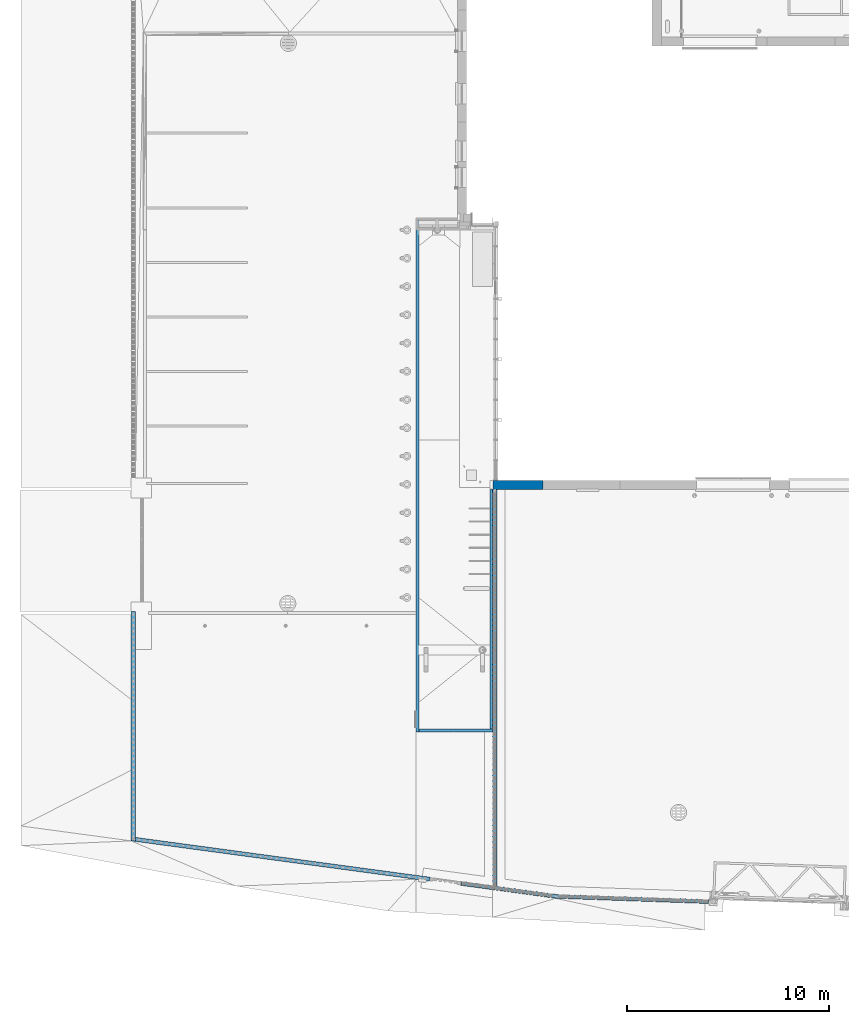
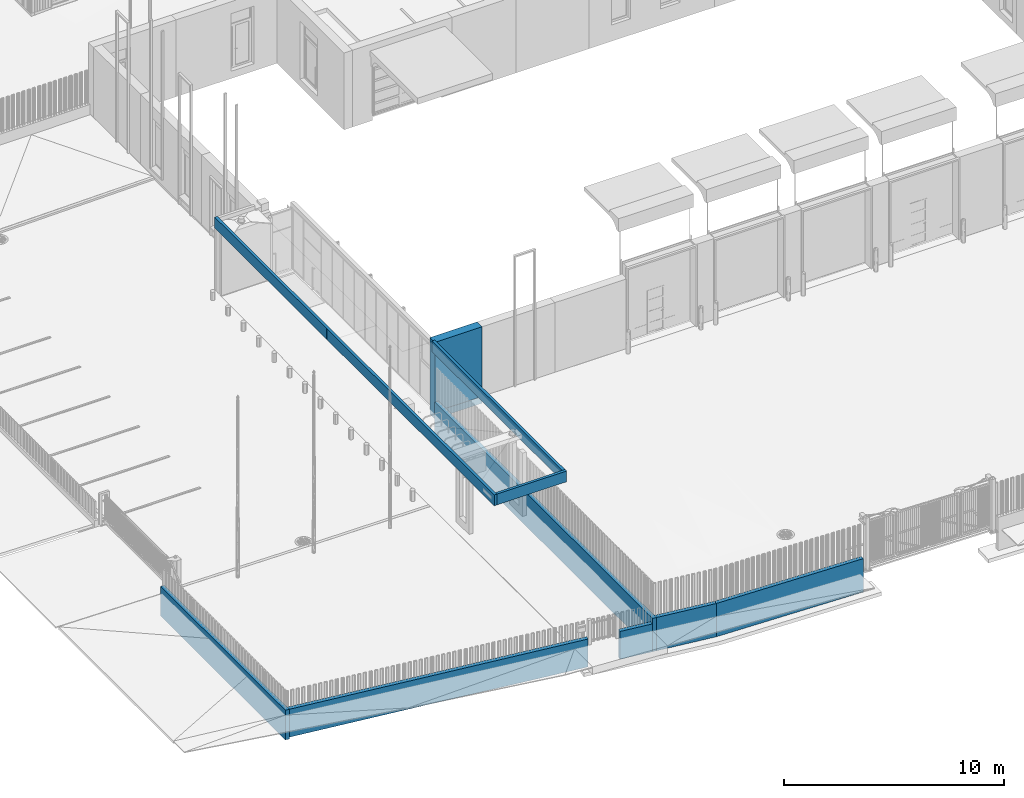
# One storey, part 14 of 77: 10 walls, 15 openings.
"""IFC2X3 building model written with IfcOpenShell, lengths in millimetres."""

import ifcopenshell
import ifcopenshell.guid

model = None  # the IFC model being written
_history = None  # IfcOwnerHistory: only IFC2X3 demands one
_inside = {}  # id of a spatial element -> (the spatial element, [elements in it])
_under = {}  # id of a project, library or spatial element -> (it, [spatial elements below it])
_declared = {}  # id of a project -> (the project, [libraries it declares])
_typed = {}  # id of a type object -> (the type object, [elements of that type])
_made_of = {}  # id of a material, layer set ... -> (it, [elements and type objects made of it])


def new_model(schema):
    """Start an empty IFC model of exactly this schema.

    Asked for "IFC4X3", IfcOpenShell would pick the latest addendum, in which some entities
    have other attributes; the version numbers below select the first issue.
    IFC2X3 requires an IfcOwnerHistory on every rooted entity: one is made here for all.
    """
    global model, _history
    if schema == "IFC4X3":
        model = ifcopenshell.file(schema_version=(4, 3, 0, 0))
    else:
        model = ifcopenshell.file(schema=schema)
    _inside.clear()
    _under.clear()
    _declared.clear()
    _typed.clear()
    _made_of.clear()
    _history = None
    if model.schema == "IFC2X3":
        org = make("IfcOrganization", Name="unknown")
        user = make(
            "IfcPersonAndOrganization",
            ThePerson=make("IfcPerson", FamilyName="unknown"),
            TheOrganization=org,
        )
        app = make(
            "IfcApplication",
            ApplicationDeveloper=org,
            Version="unknown",
            ApplicationFullName="unknown",
            ApplicationIdentifier="unknown",
        )
        _history = make(
            "IfcOwnerHistory",
            OwningUser=user,
            OwningApplication=app,
            ChangeAction="ADDED",
            CreationDate=0,
        )
    return model


def make(cls, **values):
    """One entity of the class cls with the attributes given. An attribute that is None is left unset."""
    return model.create_entity(
        cls, **{name: value for name, value in values.items() if value is not None}
    )


def entity(cls, *values):
    """Any entity or typed value of the class cls, its attributes in the order of the schema. None: left unset."""
    e = model.create_entity(cls)
    for i, value in enumerate(values):
        if value is not None:
            e[i] = value
    return e


def rooted(cls, **values):
    """An entity with a GlobalId (a new one), such as an element, a storey or a relation."""
    return make(cls, GlobalId=ifcopenshell.guid.new(), OwnerHistory=_history, **values)


def si_unit(unit_type, name, prefix=None):
    """IfcSIUnit, for example si_unit("LENGTHUNIT", "METRE", prefix="MILLI")."""
    return make("IfcSIUnit", UnitType=unit_type, Prefix=prefix, Name=name)


def converted_unit(unit_type, name, factor, base, dimensions=None, offset=None):
    """IfcConversionBasedUnit, such as the inch: factor (a typed value) times the base unit."""
    return make(
        "IfcConversionBasedUnit"
        if offset is None
        else "IfcConversionBasedUnitWithOffset",
        ConversionOffset=offset,
        Dimensions=None
        if dimensions is None
        else entity("IfcDimensionalExponents", *dimensions),
        UnitType=unit_type,
        Name=name,
        ConversionFactor=make(
            "IfcMeasureWithUnit", ValueComponent=factor, UnitComponent=base
        ),
    )


def derived_unit(unit_type, elements):
    """IfcDerivedUnit: a product of units, each with its exponent."""
    return make(
        "IfcDerivedUnit",
        Elements=[
            make("IfcDerivedUnitElement", Unit=unit, Exponent=power)
            for unit, power in elements
        ],
        UnitType=unit_type,
    )


def assignment(units):
    """IfcUnitAssignment: the units of a project."""
    return None if units is None else make("IfcUnitAssignment", Units=units)


def point(xyz):
    """IfcCartesianPoint."""
    return None if xyz is None else make("IfcCartesianPoint", Coordinates=xyz)


def direction(xyz):
    """IfcDirection."""
    return None if xyz is None else make("IfcDirection", DirectionRatios=xyz)


def frame(location, z_axis=None, x_axis=None):
    """IfcAxis2Placement3D, a coordinate frame: its origin and axes. An axis left out is left unset."""
    return make(
        "IfcAxis2Placement3D",
        Location=point(location),
        Axis=direction(z_axis),
        RefDirection=direction(x_axis),
    )


def frame_2d(location, x_axis=None):
    """IfcAxis2Placement2D, a coordinate frame in the plane: its origin and x axis."""
    return make(
        "IfcAxis2Placement2D", Location=point(location), RefDirection=direction(x_axis)
    )


def origin():
    """The frame at (0, 0, 0) with its axes left unset."""
    return frame((0.0, 0.0, 0.0))


def origin_2d_with_axis():
    """The frame at (0, 0) in the plane with the x axis (1, 0) written out."""
    return frame_2d((0.0, 0.0), x_axis=(1.0, 0.0))


def place(relative_to, where):
    """IfcLocalPlacement: puts the frame where relative to a parent placement (None: the world)."""
    return make(
        "IfcLocalPlacement", PlacementRelTo=relative_to, RelativePlacement=where
    )


def context(
    kind, dimensions, precision=None, world=None, true_north=None, identifier=None
):
    """IfcGeometricRepresentationContext, for example the 3D "Model" context."""
    return make(
        "IfcGeometricRepresentationContext",
        ContextIdentifier=identifier,
        ContextType=kind,
        CoordinateSpaceDimension=dimensions,
        Precision=precision,
        WorldCoordinateSystem=world,
        TrueNorth=true_north,
    )


def subcontext(parent, identifier, kind, view, scale=None):
    """IfcGeometricRepresentationSubContext, for example "Body" below "Model"."""
    return make(
        "IfcGeometricRepresentationSubContext",
        ContextIdentifier=identifier,
        ContextType=kind,
        ParentContext=parent,
        TargetScale=scale,
        TargetView=view,
    )


def project(units=None, contexts=None):
    """IfcProject with its units and contexts."""
    return rooted(
        "IfcProject",
        Name="project",
        RepresentationContexts=contexts,
        UnitsInContext=assignment(units),
    )


def spatial(cls, under=None, at=None, **own):
    """A site, building, storey or space (cls), placed at a placement, below another one or the project."""
    s = rooted(cls, ObjectPlacement=at, **own)
    if under is not None:
        _under.setdefault(under.id(), (under, []))[1].append(s)
    return s


def polyline(points):
    """IfcPolyline through the points."""
    return make("IfcPolyline", Points=[point(p) for p in points])


def profile(cls, at=None, kind="AREA", **sizes):
    """A parametric profile (cls). Its sizes go by their IFC names, for example OverallWidth=200.0."""
    return make(cls, ProfileType=kind, Position=at, **sizes)


def rectangle(**sizes):
    """IfcRectangleProfileDef."""
    return profile("IfcRectangleProfileDef", **sizes)


def outline(outer, holes=None, kind="AREA"):
    """IfcArbitraryClosedProfileDef: a profile drawn as a closed curve; with holes, ...WithVoids."""
    if holes is None:
        return make("IfcArbitraryClosedProfileDef", ProfileType=kind, OuterCurve=outer)
    return make(
        "IfcArbitraryProfileDefWithVoids",
        ProfileType=kind,
        OuterCurve=outer,
        InnerCurves=holes,
    )


def extrude(swept, where, along, depth):
    """IfcExtrudedAreaSolid: the profile swept, set in the frame where, extruded along a direction by depth."""
    return make(
        "IfcExtrudedAreaSolid",
        SweptArea=swept,
        Position=where,
        ExtrudedDirection=direction(along),
        Depth=depth,
    )


def faces_of(points, faces, orient=None, outer=None):
    """IfcFace entities. A face is a list of loops; a loop is a list of indices into points, from 0.

    orient and outer hold one flag for each loop. By default every Orientation is true, the
    first loop of a face is its IfcFaceOuterBound and the others are IfcFaceBound.
    """
    made = []
    for i, loops in enumerate(faces):
        bounds = []
        for j, loop in enumerate(loops):
            is_outer = j == 0 if outer is None else outer[i][j]
            bounds.append(
                make(
                    "IfcFaceOuterBound" if is_outer else "IfcFaceBound",
                    Bound=make("IfcPolyLoop", Polygon=[points[k] for k in loop]),
                    Orientation=True if orient is None else orient[i][j],
                )
            )
        made.append(make("IfcFace", Bounds=bounds))
    return made


def faceted_brep(points, faces, orient=None, outer=None, voids=None):
    """IfcFacetedBrep: a solid bounded by flat faces; with voids (closed shells), ...WithVoids."""
    shared = [point(p) for p in points]
    hull = make("IfcClosedShell", CfsFaces=faces_of(shared, faces, orient, outer))
    if voids is None:
        return make("IfcFacetedBrep", Outer=hull)
    return make(
        "IfcFacetedBrepWithVoids",
        Outer=hull,
        Voids=[
            make(cls, CfsFaces=faces_of(shared, fs, o, b)) for cls, fs, o, b in voids
        ],
    )


def shape(context_of_items, identifier, shape_type, items):
    """IfcShapeRepresentation: the items that make up one representation, for example the "Body"."""
    return make(
        "IfcShapeRepresentation",
        ContextOfItems=context_of_items,
        RepresentationIdentifier=identifier,
        RepresentationType=shape_type,
        Items=items,
    )


def material(Name=None, Category=None):
    """IfcMaterial."""
    return make("IfcMaterial", Name=Name, Category=Category)


def layer(
    of_material, thickness, ventilated=None, Name=None, Category=None, Priority=None
):
    """IfcMaterialLayer: one layer of a wall or slab, of a material (None: an air gap)."""
    return make(
        "IfcMaterialLayer",
        Material=of_material,
        LayerThickness=thickness,
        IsVentilated=ventilated,
        Name=Name,
        Category=Category,
        Priority=Priority,
    )


def layer_set(layers, Name=None):
    """IfcMaterialLayerSet."""
    return make("IfcMaterialLayerSet", MaterialLayers=layers, LayerSetName=Name)


def layer_usage(for_layer_set, set_direction, sense, offset, extent=None):
    """IfcMaterialLayerSetUsage: how a layer set lies in its element."""
    return make(
        "IfcMaterialLayerSetUsage",
        ForLayerSet=for_layer_set,
        LayerSetDirection=set_direction,
        DirectionSense=sense,
        OffsetFromReferenceLine=offset,
        ReferenceExtent=extent,
    )


def made_of(thing, what):
    """Note that an element or type object is made of a material, layer set ...; save() writes the relation."""
    if what is not None:
        _made_of.setdefault(what.id(), (what, []))[1].append(thing)
    return thing


def type_object(cls, material=None, **own):
    """A type object (cls), such as IfcWallType, which elements share."""
    return made_of(rooted(cls, **own), material)


def element(
    cls,
    number,
    at=None,
    inside=None,
    cuts=None,
    type_object=None,
    material=None,
    context=None,
    identifier="Body",
    shape_type=None,
    held_by="IfcProductDefinitionShape",
    body=None,
    shapes=None,
    **own,
):
    """One element of the class cls, such as IfcWall. Its Tag is "e" and its number.

    at: its placement. inside: the storey or other place that contains it. cuts: it is an
    opening in that element (IfcRelVoidsElement). A single representation is given by context,
    identifier, shape_type and body (its items); several are given by shapes. held_by: the class
    of the entity that holds the representations. save() writes the other relations.
    """
    e = rooted(cls, Tag="e%d" % number, ObjectPlacement=at, **own)
    if body is not None:
        shapes = [shape(context, identifier, shape_type, body)]
    if shapes is not None:
        e.Representation = make(held_by, Representations=shapes)
    if inside is not None:
        _inside.setdefault(inside.id(), (inside, []))[1].append(e)
    if cuts is not None:
        rooted(
            "IfcRelVoidsElement", RelatingBuildingElement=cuts, RelatedOpeningElement=e
        )
    if type_object is not None:
        _typed.setdefault(type_object.id(), (type_object, []))[1].append(e)
    return made_of(e, material)


def aggregate(whole, parts):
    """IfcRelAggregates: a whole, such as a stair, and the parts it consists of."""
    return rooted("IfcRelAggregates", RelatingObject=whole, RelatedObjects=parts)


def save(model, path):
    """Write the relations noted so far, then the file.

    IfcRelAggregates (storeys below a building ...), IfcRelContainedInSpatialStructure (elements
    in a storey), IfcRelDefinesByType, IfcRelAssociatesMaterial and IfcRelDeclares: one each for
    every whole, place, type object, material and project.
    """
    for whole, parts in _under.values():
        aggregate(whole, parts)
    for where, things in _inside.values():
        rooted(
            "IfcRelContainedInSpatialStructure",
            RelatedElements=things,
            RelatingStructure=where,
        )
    for kind, things in _typed.values():
        rooted("IfcRelDefinesByType", RelatedObjects=things, RelatingType=kind)
    for what, things in _made_of.values():
        rooted("IfcRelAssociatesMaterial", RelatedObjects=things, RelatingMaterial=what)
    for by, libraries in _declared.values():
        rooted("IfcRelDeclares", RelatingContext=by, RelatedDefinitions=libraries)
    model.write(path)


model = new_model("IFC2X3")

# Units and contexts
model_context = context("Model", 3, precision=0.01, world=origin(), true_north=direction((6.12303176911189e-17, 1.0)))
body_context = subcontext(model_context, "Body", "Model", "MODEL_VIEW")
ifc_project = project(units=[si_unit("LENGTHUNIT", "METRE", prefix="MILLI"), si_unit("AREAUNIT", "SQUARE_METRE"), si_unit("VOLUMEUNIT", "CUBIC_METRE"), converted_unit("PLANEANGLEUNIT", "DEGREE", entity("IfcRatioMeasure", 0.0174532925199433), si_unit("PLANEANGLEUNIT", "RADIAN"), dimensions=[0, 0, 0, 0, 0, 0, 0]), si_unit("MASSUNIT", "GRAM", prefix="KILO"), derived_unit("MASSDENSITYUNIT", [(si_unit("MASSUNIT", "GRAM", prefix="KILO"), 1), (si_unit("LENGTHUNIT", "METRE"), -3)]), si_unit("TIMEUNIT", "SECOND"), si_unit("FREQUENCYUNIT", "HERTZ"), si_unit("THERMODYNAMICTEMPERATUREUNIT", "DEGREE_CELSIUS"), derived_unit("THERMALTRANSMITTANCEUNIT", [(si_unit("MASSUNIT", "GRAM", prefix="KILO"), 1), (si_unit("THERMODYNAMICTEMPERATUREUNIT", "KELVIN"), -1), (si_unit("TIMEUNIT", "SECOND"), -3)]), derived_unit("VOLUMETRICFLOWRATEUNIT", [(si_unit("LENGTHUNIT", "METRE"), 3), (si_unit("TIMEUNIT", "SECOND"), -1)]), si_unit("ELECTRICCURRENTUNIT", "AMPERE"), si_unit("ELECTRICVOLTAGEUNIT", "VOLT"), si_unit("POWERUNIT", "WATT"), si_unit("FORCEUNIT", "NEWTON", prefix="KILO"), si_unit("ILLUMINANCEUNIT", "LUX"), si_unit("LUMINOUSFLUXUNIT", "LUMEN"), si_unit("LUMINOUSINTENSITYUNIT", "CANDELA"), derived_unit("USERDEFINED", [(si_unit("MASSUNIT", "GRAM", prefix="KILO"), -1), (si_unit("LENGTHUNIT", "METRE"), -2), (si_unit("TIMEUNIT", "SECOND"), 3), (si_unit("LUMINOUSFLUXUNIT", "LUMEN"), 1)]), derived_unit("LINEARVELOCITYUNIT", [(si_unit("LENGTHUNIT", "METRE"), 1), (si_unit("TIMEUNIT", "SECOND"), -1)]), si_unit("PRESSUREUNIT", "PASCAL"), derived_unit("USERDEFINED", [(si_unit("LENGTHUNIT", "METRE"), -2), (si_unit("MASSUNIT", "GRAM", prefix="KILO"), 1), (si_unit("TIMEUNIT", "SECOND"), -2)])], contexts=[model_context])

# Site, building, storey
site_placement = place(None, origin())
site = spatial("IfcSite", under=ifc_project, at=site_placement, Name="Default", CompositionType="ELEMENT")
building_placement = place(site_placement, origin())
building = spatial("IfcBuilding", under=site, at=building_placement, CompositionType="ELEMENT")
storey_placement = place(building_placement, origin())
storey = spatial("IfcBuildingStorey", under=building, at=storey_placement, Name="1. KORRUS", CompositionType="ELEMENT", Elevation=0.0)

# Wall, openings
ifc_material_1 = material(Name="Must-al-komposiitplaat")
ifc_layer_1 = layer(ifc_material_1, 5.0)
ifc_material_2 = material(Name="Õhkvahe- hor roovid")
ifc_layer_2 = layer(ifc_material_2, 20.0)
ifc_material_3 = material(Name="Õhkvahe- vert roovid")
ifc_layer_3 = layer(ifc_material_3, 100.0)
ifc_material_4 = material(Name="Vineer")
ifc_layer_4 = layer(ifc_material_4, 15.0)
ifc_layer_set_1 = layer_set([ifc_layer_1, ifc_layer_2, ifc_layer_3, ifc_layer_4], Name="Basic Wall:varikatuse serv")
ifc_layer_usage_1 = layer_usage(ifc_layer_set_1, "AXIS2", "POSITIVE", -70.0)
wall_type_1 = type_object("IfcWallType", Name="Basic Wall:varikatuse serv", PredefinedType="STANDARD", material=ifc_layer_set_1)
wall_1_placement = place(storey_placement, frame((-2430.0, 13000.0006972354, 3400.0), z_axis=(0.0, 0.0, 1.0), x_axis=(0.0, -1.0, 0.0)))
wall_1 = element("IfcWallStandardCase", 1, at=wall_1_placement, inside=storey, type_object=wall_type_1, material=ifc_layer_usage_1, Name="Basic Wall:varikatuse serv", ObjectType="Basic Wall:varikatuse serv", context=body_context, shape_type="SweptSolid", body=[
    extrude(rectangle(XDim=25450.0006972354, YDim=140.0, at=frame_2d((12725.0003486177, 9.2370555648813e-14), x_axis=(-1.0, 0.0))), origin(), (0.0, 0.0, 1.0), 600.0),
])
opening_1_placement = place(wall_1_placement, origin())
element("IfcOpeningElement", 2, at=opening_1_placement, cuts=wall_1, Name="Basic Wall:varikatuse serv", ObjectType="Recess", context=body_context, shape_type="SweptSolid", body=[
    extrude(rectangle(XDim=600.0, YDim=4.99999999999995, at=frame_2d((0.0, 5.41566791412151e-13), x_axis=(1.0, 0.0))), frame((7002.50069723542, -70.0, 300.0), z_axis=(0.0, 1.0, 0.0), x_axis=(0.0, 0.0, -1.0)), (0.0, 0.0, 1.0), 4.99999999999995),
])
opening_2_placement = place(wall_1_placement, origin())
element("IfcOpeningElement", 3, at=opening_2_placement, cuts=wall_1, Name="Basic Wall:varikatuse serv", ObjectType="Recess", context=body_context, shape_type="SweptSolid", body=[
    extrude(rectangle(XDim=600.0, YDim=4.99999999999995, at=frame_2d((0.0, 5.41566791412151e-13), x_axis=(1.0, 0.0))), frame((3802.50069723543, -70.0, 300.0), z_axis=(0.0, 1.0, 0.0), x_axis=(0.0, 0.0, -1.0)), (0.0, 0.0, 1.0), 4.99999999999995),
])
opening_3_placement = place(wall_1_placement, origin())
element("IfcOpeningElement", 4, at=opening_3_placement, cuts=wall_1, Name="Basic Wall:varikatuse serv", ObjectType="Recess", context=body_context, shape_type="SweptSolid", body=[
    extrude(rectangle(XDim=600.0, YDim=5.00000000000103, at=origin_2d_with_axis()), frame((602.500348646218, -70.0, 300.0), z_axis=(0.0, 1.0, 0.0), x_axis=(0.0, 0.0, -1.0)), (0.0, 0.0, 1.0), 4.99999999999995),
])
opening_4_placement = place(wall_1_placement, origin())
element("IfcOpeningElement", 5, at=opening_4_placement, cuts=wall_1, Name="Basic Wall:varikatuse serv", ObjectType="Recess", context=body_context, shape_type="SweptSolid", body=[
    extrude(rectangle(XDim=600.0, YDim=4.99999999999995, at=origin_2d_with_axis()), frame((10202.5006972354, -70.0, 300.0), z_axis=(0.0, 1.0, 0.0), x_axis=(0.0, 0.0, -1.0)), (0.0, 0.0, 1.0), 4.99999999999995),
])
opening_5_placement = place(wall_1_placement, origin())
element("IfcOpeningElement", 6, at=opening_5_placement, cuts=wall_1, Name="Basic Wall:varikatuse serv", ObjectType="Recess", context=body_context, shape_type="SweptSolid", body=[
    extrude(rectangle(XDim=600.0, YDim=5.00000000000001, at=frame_2d((0.0, 3.39728245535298e-14), x_axis=(1.0, 0.0))), frame((13402.5006972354, -70.0, 300.0), z_axis=(0.0, 1.0, 0.0), x_axis=(0.0, 0.0, -1.0)), (0.0, 0.0, 1.0), 4.99999999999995),
])
opening_6_placement = place(wall_1_placement, origin())
element("IfcOpeningElement", 7, at=opening_6_placement, cuts=wall_1, Name="Basic Wall:varikatuse serv", ObjectType="Recess", context=body_context, shape_type="SweptSolid", body=[
    extrude(rectangle(XDim=600.0, YDim=4.99999999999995, at=frame_2d((0.0, 5.41566791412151e-13), x_axis=(1.0, 0.0))), frame((16602.5006972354, -70.0, 300.0), z_axis=(0.0, 1.0, 0.0), x_axis=(0.0, 0.0, -1.0)), (0.0, 0.0, 1.0), 4.99999999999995),
])
opening_7_placement = place(wall_1_placement, origin())
element("IfcOpeningElement", 8, at=opening_7_placement, cuts=wall_1, Name="Basic Wall:varikatuse serv", ObjectType="Recess", context=body_context, shape_type="SweptSolid", body=[
    extrude(rectangle(XDim=600.0, YDim=4.99999999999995, at=frame_2d((0.0, 5.41566791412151e-13), x_axis=(1.0, 0.0))), frame((19802.5006972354, -70.0, 300.0), z_axis=(0.0, 1.0, 0.0), x_axis=(0.0, 0.0, -1.0)), (0.0, 0.0, 1.0), 4.99999999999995),
])
opening_8_placement = place(wall_1_placement, origin())
element("IfcOpeningElement", 9, at=opening_8_placement, cuts=wall_1, Name="Basic Wall:varikatuse serv", ObjectType="Recess", context=body_context, shape_type="SweptSolid", body=[
    extrude(rectangle(XDim=600.0, YDim=5.00000000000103, at=frame_2d((0.0, -1.08291153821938e-12), x_axis=(1.0, 0.0))), frame((23002.5006972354, -70.0, 300.0), z_axis=(0.0, 1.0, 0.0), x_axis=(0.0, 0.0, -1.0)), (0.0, 0.0, 1.0), 4.99999999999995),
])

ifc_layer_usage_2 = layer_usage(ifc_layer_set_1, "AXIS2", "POSITIVE", -70.0)
wall_2_placement = place(storey_placement, frame((-2360.0, -12380.0, 3400.0)))
wall_2 = element("IfcWallStandardCase", 10, at=wall_2_placement, inside=storey, type_object=wall_type_1, material=ifc_layer_usage_2, Name="Basic Wall:varikatuse serv", ObjectType="Basic Wall:varikatuse serv", context=body_context, shape_type="SweptSolid", body=[
    extrude(rectangle(XDim=3660.00000000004, YDim=139.999999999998, at=frame_2d((1830.00000000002, -2.41584530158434e-13), x_axis=(-1.0, 0.0))), origin(), (0.0, 0.0, 1.0), 600.0),
])
opening_9_placement = place(wall_2_placement, origin())
element("IfcOpeningElement", 11, at=opening_9_placement, cuts=wall_2, Name="Basic Wall:varikatuse serv", ObjectType="Recess", context=body_context, shape_type="SweptSolid", body=[
    extrude(rectangle(XDim=600.0, YDim=4.99999999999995, at=origin_2d_with_axis()), frame((2.50000000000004, -70.0, 300.0), z_axis=(0.0, 1.0, 0.0), x_axis=(0.0, 0.0, -1.0)), (0.0, 0.0, 1.0), 5.00000000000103),
])
opening_10_placement = place(wall_2_placement, origin())
element("IfcOpeningElement", 12, at=opening_10_placement, cuts=wall_2, Name="Basic Wall:varikatuse serv", ObjectType="Recess", context=body_context, shape_type="SweptSolid", body=[
    extrude(rectangle(XDim=600.0, YDim=4.99999999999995, at=origin_2d_with_axis()), frame((3532.50000000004, -70.0, 300.0), z_axis=(0.0, 1.0, 0.0), x_axis=(0.0, 0.0, -1.0)), (0.0, 0.0, 1.0), 5.00000000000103),
])
opening_11_placement = place(wall_2_placement, origin())
element("IfcOpeningElement", 13, at=opening_11_placement, cuts=wall_2, Name="Basic Wall:varikatuse serv", ObjectType="Recess", context=body_context, shape_type="SweptSolid", body=[
    extrude(rectangle(XDim=600.0, YDim=4.99999999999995, at=origin_2d_with_axis()), frame((1732.50000000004, -70.0, 300.0), z_axis=(0.0, 1.0, 0.0), x_axis=(0.0, 0.0, -1.0)), (0.0, 0.0, 1.0), 5.00000000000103),
])

ifc_layer_usage_3 = layer_usage(ifc_layer_set_1, "AXIS2", "POSITIVE", -70.0)
wall_3_placement = place(storey_placement, frame((1230.0, -12310.0, 3400.0), z_axis=(0.0, 0.0, 1.0), x_axis=(0.0, 1.0, 0.0)))
wall_3 = element("IfcWallStandardCase", 14, at=wall_3_placement, inside=storey, type_object=wall_type_1, material=ifc_layer_usage_3, Name="Basic Wall:varikatuse serv", ObjectType="Basic Wall:varikatuse serv", context=body_context, shape_type="SweptSolid", body=[
    extrude(rectangle(XDim=11860.0, YDim=140.0, at=frame_2d((5930.0, 7.105427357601e-15), x_axis=(-1.0, 0.0))), origin(), (0.0, 0.0, 1.0), 600.0),
])
opening_12_placement = place(wall_3_placement, origin())
element("IfcOpeningElement", 15, at=opening_12_placement, cuts=wall_3, Name="Basic Wall:varikatuse serv", ObjectType="Recess", context=body_context, shape_type="SweptSolid", body=[
    extrude(rectangle(XDim=600.0, YDim=4.99999999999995, at=origin_2d_with_axis()), frame((8657.49999999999, -70.0, 300.0), z_axis=(0.0, 1.0, 0.0), x_axis=(0.0, 0.0, -1.0)), (0.0, 0.0, 1.0), 4.99999999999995),
])
opening_13_placement = place(wall_3_placement, origin())
element("IfcOpeningElement", 16, at=opening_13_placement, cuts=wall_3, Name="Basic Wall:varikatuse serv", ObjectType="Recess", context=body_context, shape_type="SweptSolid", body=[
    extrude(rectangle(XDim=600.0, YDim=4.99999999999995, at=frame_2d((0.0, -5.41566791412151e-13), x_axis=(1.0, 0.0))), frame((5457.5, -70.0, 300.0), z_axis=(0.0, 1.0, 0.0), x_axis=(0.0, 0.0, -1.0)), (0.0, 0.0, 1.0), 4.99999999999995),
])
opening_14_placement = place(wall_3_placement, origin())
element("IfcOpeningElement", 17, at=opening_14_placement, cuts=wall_3, Name="Basic Wall:varikatuse serv", ObjectType="Recess", context=body_context, shape_type="SweptSolid", body=[
    extrude(rectangle(XDim=600.0, YDim=5.00000000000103, at=frame_2d((0.0, -1.08291153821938e-12), x_axis=(1.0, 0.0))), frame((2257.5, -70.0, 300.0), z_axis=(0.0, 1.0, 0.0), x_axis=(0.0, 0.0, -1.0)), (0.0, 0.0, 1.0), 4.99999999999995),
])

# Wall, opening
ifc_material_5 = material(Name="RECKLI 1 173 THUR by Polantis 2016-toon1")
ifc_layer_5 = layer(ifc_material_5, 100.0)
ifc_material_6 = material(Name="Soojusisolatsioon PIR")
ifc_layer_6 = layer(ifc_material_6, 150.0)
ifc_material_7 = material(Name="r/b")
ifc_layer_7 = layer(ifc_material_7, 200.0)
ifc_layer_set_2 = layer_set([ifc_layer_5, ifc_layer_6, ifc_layer_7], Name="Basic Wall:VS-2 -toon-d")
ifc_layer_usage_4 = layer_usage(ifc_layer_set_2, "AXIS2", "NEGATIVE", 225.0)
wall_type_2 = type_object("IfcWallType", Name="Basic Wall:VS-2 -toon-d", PredefinedType="STANDARD", material=ifc_layer_set_2)
wall_4_placement = place(storey_placement, frame((3790.030823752, -225.0, -400.0), z_axis=(0.0, 0.0, 1.0), x_axis=(-1.0, 0.0, 0.0)))
wall_4 = element("IfcWallStandardCase", 18, at=wall_4_placement, inside=storey, type_object=wall_type_2, material=ifc_layer_usage_4, Name="Basic Wall:VS-2 -toon-d", ObjectType="Basic Wall:VS-2 -toon-d", context=body_context, shape_type="SweptSolid", body=[
    extrude(rectangle(XDim=2485.0, YDim=450.0, at=frame_2d((1242.5, 4.2632564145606e-14), x_axis=(-1.0, 0.0))), origin(), (0.0, 0.0, 1.0), 4265.0),
])
opening_15_placement = place(wall_4_placement, origin())
element("IfcOpeningElement", 19, at=opening_15_placement, cuts=wall_4, Name="Basic Wall:VS-2 -toon-d", ObjectType="Opening", context=body_context, shape_type="Brep", body=[
    faceted_brep([(4220.03082375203, -28255.0, 400.0), (4220.03082375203, -28255.0, 0.0), (4240.03082375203, -28275.0, 0.0), (4240.03082375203, -28275.0, 400.0), (4220.03082375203, -23515.0, 400.0), (4240.03082375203, -23515.0, 400.0), (4240.03082375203, -23515.0, 0.0), (4220.03082375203, -23515.0, 0.0)], [[[0, 1, 2, 3]], [[4, 5, 6, 7]], [[1, 0, 4, 7]], [[2, 1, 7, 6]], [[3, 2, 6, 5]], [[0, 3, 5, 4]]]),
    faceted_brep([(4220.03082375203, -28255.0, 400.0), (4240.03082375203, -28275.0, 400.0), (4240.03082375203, -28275.0, 0.0), (4220.03082375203, -28255.0, 0.0), (-119.969176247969, -28255.0, 400.0), (-119.969176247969, -28255.0, 0.0), (-119.969176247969, -28275.0, 0.0), (-119.969176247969, -28275.0, 400.0)], [[[0, 1, 2, 3]], [[4, 5, 6, 7]], [[1, 0, 4, 7]], [[2, 1, 7, 6]], [[3, 2, 6, 5]], [[0, 3, 5, 4]]]),
    faceted_brep([(-5839.96917624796, -28255.0, 400.0), (-5859.96917624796, -28275.0, 400.0), (-5859.96917624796, -28275.0, 0.0), (-5839.96917624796, -28255.0, 0.0), (-5839.96917624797, -22155.0517807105, 400.0), (-5839.96917624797, -22155.0517807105, 0.0), (-5859.96917624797, -22175.0517807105, 0.0), (-5859.96917624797, -22175.0517807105, 400.0)], [[[0, 1, 2, 3]], [[4, 5, 6, 7]], [[1, 0, 4, 7]], [[2, 1, 7, 6]], [[3, 2, 6, 5]], [[0, 3, 5, 4]]]),
    faceted_brep([(-10559.969176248, -22155.0517807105, 400.0), (-10559.969176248, -22175.0517807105, 400.0), (-10559.969176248, -22175.0517807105, 0.0), (-10559.969176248, -22155.0517807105, 0.0), (-11089.9691762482, -22155.0517807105, 400.0), (-11089.9691762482, -22155.0517807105, 0.0), (-11089.9691762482, -22175.0517807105, 0.0), (-11089.9691762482, -22175.0517807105, 400.0)], [[[0, 1, 2, 3]], [[4, 5, 6, 7]], [[1, 0, 4, 7]], [[2, 1, 7, 6]], [[3, 2, 6, 5]], [[0, 3, 5, 4]]]),
    faceted_brep([(-36139.969176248, -22155.0517807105, 400.0), (-36159.969176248, -22175.0517807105, 400.0), (-36159.969176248, -22175.0517807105, 0.0), (-36139.969176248, -22155.0517807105, 0.0), (-36139.969176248, -16015.0, 400.0), (-36139.969176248, -16015.0, 0.0), (-36159.969176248, -16015.0, 0.0), (-36159.969176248, -16015.0, 400.0)], [[[0, 1, 2, 3]], [[4, 5, 6, 7]], [[1, 0, 4, 7]], [[2, 1, 7, 6]], [[3, 2, 6, 5]], [[0, 3, 5, 4]]]),
    faceted_brep([(-36139.969176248, 205.0, 400.0), (-36159.969176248, 225.0, 400.0), (-36159.969176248, 225.0, 0.0), (-36139.969176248, 205.0, 0.0), (-31009.969176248, 205.0, 400.0), (-31009.969176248, 205.0, 0.0), (-31009.969176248, 225.0, 0.0), (-31009.969176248, 225.0, 400.0)], [[[0, 1, 2, 3]], [[4, 5, 6, 7]], [[1, 0, 4, 7]], [[2, 1, 7, 6]], [[3, 2, 6, 5]], [[0, 3, 5, 4]]]),
    faceted_brep([(-7609.96917624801, 205.0, 400.0), (-7609.96917624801, 225.0, 400.0), (-7609.96917624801, 225.0, 0.0), (-7609.96917624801, 205.0, 0.0), (-3824.96917624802, 205.0, 400.0), (-3824.96917624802, 205.0, 0.0), (-3824.96917624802, 225.0, 0.0), (-3824.96917624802, 225.0, 400.0)], [[[0, 1, 2, 3]], [[4, 5, 6, 7]], [[1, 0, 4, 7]], [[2, 1, 7, 6]], [[3, 2, 6, 5]], [[0, 3, 5, 4]]]),
    faceted_brep([(-36139.969176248, -12985.0, 400.0), (-36159.969176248, -12985.0, 400.0), (-36159.969176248, -12985.0, 0.0), (-36139.969176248, -12985.0, 0.0), (-36139.969176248, -8868.33000000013, 400.0), (-36139.969176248, -8868.33000000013, 0.0), (-36159.969176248, -8868.33000000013, 0.0), (-36159.969176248, -8868.33000000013, 400.0)], [[[0, 1, 2, 3]], [[4, 5, 6, 7]], [[1, 0, 4, 7]], [[2, 1, 7, 6]], [[3, 2, 6, 5]], [[0, 3, 5, 4]]]),
    faceted_brep([(-27409.9691762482, 205.0, 400.0), (-27409.9691762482, 225.0, 400.0), (-27409.9691762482, 225.0, 0.0), (-27409.9691762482, 205.0, 0.0), (-25009.969176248, 205.0, 400.0), (-25009.969176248, 205.0, 0.0), (-25009.969176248, 225.0, 0.0), (-25009.969176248, 225.0, 400.0)], [[[0, 1, 2, 3]], [[4, 5, 6, 7]], [[1, 0, 4, 7]], [[2, 1, 7, 6]], [[3, 2, 6, 5]], [[0, 3, 5, 4]]]),
    faceted_brep([(0.0, 205.0, 400.0), (0.0, 225.0, 400.0), (0.0, 225.0, 0.0), (0.0, 205.0, 0.0), (2485.0, 205.0, 400.0), (2485.0, 205.0, 0.0), (2485.0, 225.0, 0.0), (2485.0, 225.0, 400.0)], [[[0, 1, 2, 3]], [[4, 5, 6, 7]], [[1, 0, 4, 7]], [[2, 1, 7, 6]], [[3, 2, 6, 5]], [[0, 3, 5, 4]]]),
    faceted_brep([(-12209.9691762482, 205.0, 400.0), (-12209.9691762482, 225.0, 400.0), (-12209.9691762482, 225.0, 0.0), (-12209.9691762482, 205.0, 0.0), (-11209.969176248, 205.0, 400.0), (-11209.969176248, 205.0, 0.0), (-11209.969176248, 225.0, 0.0), (-11209.969176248, 225.0, 400.0)], [[[0, 1, 2, 3]], [[4, 5, 6, 7]], [[1, 0, 4, 7]], [[2, 1, 7, 6]], [[3, 2, 6, 5]], [[0, 3, 5, 4]]]),
    faceted_brep([(-16810.0008392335, 205.0, 400.0), (-16810.0008392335, 225.0, 400.0), (-16810.0008392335, 225.0, 0.0), (-16810.0008392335, 205.0, 0.0), (-15809.969176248, 205.0, 400.0), (-15809.969176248, 205.0, 0.0), (-15809.969176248, 225.0, 0.0), (-15809.969176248, 225.0, 400.0)], [[[0, 1, 2, 3]], [[4, 5, 6, 7]], [[1, 0, 4, 7]], [[2, 1, 7, 6]], [[3, 2, 6, 5]], [[0, 3, 5, 4]]]),
    faceted_brep([(-21410.0008392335, 205.0, 400.0), (-21410.0008392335, 225.0, 400.0), (-21410.0008392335, 225.0, 0.0), (-21410.0008392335, 205.0, 0.0), (-20409.969176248, 205.0, 400.0), (-20409.969176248, 205.0, 0.0), (-20409.969176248, 225.0, 0.0), (-20409.969176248, 225.0, 400.0)], [[[0, 1, 2, 3]], [[4, 5, 6, 7]], [[1, 0, 4, 7]], [[2, 1, 7, 6]], [[3, 2, 6, 5]], [[0, 3, 5, 4]]]),
    faceted_brep([(-36139.969176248, -4640.0, 400.0), (-36159.969176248, -4640.0, 400.0), (-36159.969176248, -4640.0, 0.0), (-36139.969176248, -4640.0, 0.0), (-36139.969176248, 205.0, 400.0), (-36139.969176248, 205.0, 0.0), (-36159.969176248, 225.0, 0.0), (-36159.969176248, 225.0, 400.0)], [[[0, 1, 2, 3]], [[4, 5, 6, 7]], [[1, 0, 4, 7]], [[2, 1, 7, 6]], [[3, 2, 6, 5]], [[0, 3, 5, 4]]]),
    faceted_brep([(-36139.969176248, -8868.33000000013, 400.0), (-36159.969176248, -8868.33000000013, 400.0), (-36159.969176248, -8868.33000000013, 0.0), (-36139.969176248, -8868.33000000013, 0.0), (-36139.969176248, -4640.0, 400.0), (-36139.969176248, -4640.0, 0.0), (-36159.969176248, -4640.0, 0.0), (-36159.969176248, -4640.0, 400.0)], [[[0, 1, 2, 3]], [[4, 5, 6, 7]], [[1, 0, 4, 7]], [[2, 1, 7, 6]], [[3, 2, 6, 5]], [[0, 3, 5, 4]]]),
    faceted_brep([(-36139.969176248, -16015.0, 400.0), (-36159.969176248, -16015.0, 400.0), (-36159.969176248, -16015.0, 0.0), (-36139.969176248, -16015.0, 0.0), (-36139.969176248, -12985.0, 400.0), (-36139.969176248, -12985.0, 0.0), (-36159.969176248, -12985.0, 0.0), (-36159.969176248, -12985.0, 400.0)], [[[0, 1, 2, 3]], [[4, 5, 6, 7]], [[1, 0, 4, 7]], [[2, 1, 7, 6]], [[3, 2, 6, 5]], [[0, 3, 5, 4]]]),
    faceted_brep([(-30180.0727464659, -22155.0517807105, 400.0), (-30180.0727464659, -22175.0517807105, 400.0), (-30180.0727464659, -22175.0517807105, 0.0), (-30180.0727464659, -22155.0517807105, 0.0), (-36139.969176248, -22155.0517807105, 400.0), (-36139.969176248, -22155.0517807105, 0.0), (-36159.969176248, -22175.0517807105, 0.0), (-36159.969176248, -22175.0517807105, 400.0)], [[[0, 1, 2, 3]], [[4, 5, 6, 7]], [[1, 0, 4, 7]], [[2, 1, 7, 6]], [[3, 2, 6, 5]], [[0, 3, 5, 4]]]),
    faceted_brep([(-24873.1853249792, -22155.0517807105, 400.0), (-24873.1853249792, -22175.0517807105, 400.0), (-24873.1853249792, -22175.0517807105, 0.0), (-24873.1853249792, -22155.0517807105, 0.0), (-30180.0727464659, -22155.0517807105, 400.0), (-30180.0727464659, -22155.0517807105, 0.0), (-30180.0727464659, -22175.0517807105, 0.0), (-30180.0727464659, -22175.0517807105, 400.0)], [[[0, 1, 2, 3]], [[4, 5, 6, 7]], [[1, 0, 4, 7]], [[2, 1, 7, 6]], [[3, 2, 6, 5]], [[0, 3, 5, 4]]]),
    faceted_brep([(-3824.96917624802, 205.0, 400.0), (-3824.96917624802, 225.0, 400.0), (-3824.96917624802, 225.0, 0.0), (-3824.96917624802, 205.0, 0.0), (0.0, 205.0, 400.0), (0.0, 205.0, 0.0), (0.0, 225.0, 0.0), (0.0, 225.0, 400.0)], [[[0, 1, 2, 3]], [[4, 5, 6, 7]], [[1, 0, 4, 7]], [[2, 1, 7, 6]], [[3, 2, 6, 5]], [[0, 3, 5, 4]]]),
    faceted_brep([(-18294.969176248, -22155.0517807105, 400.0), (-18294.969176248, -22175.0517807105, 400.0), (-18294.969176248, -22175.0517807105, 0.0), (-18294.969176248, -22155.0517807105, 0.0), (-24873.1853249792, -22155.0517807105, 400.0), (-24873.1853249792, -22155.0517807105, 0.0), (-24873.1853249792, -22175.0517807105, 0.0), (-24873.1853249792, -22175.0517807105, 400.0)], [[[0, 1, 2, 3]], [[4, 5, 6, 7]], [[1, 0, 4, 7]], [[2, 1, 7, 6]], [[3, 2, 6, 5]], [[0, 3, 5, 4]]]),
    faceted_brep([(-14463.3220672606, -22155.0517807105, 400.0), (-14463.3220672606, -22175.0517807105, 400.0), (-14463.3220672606, -22175.0517807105, 0.0), (-14463.3220672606, -22155.0517807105, 0.0), (-18294.969176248, -22155.0517807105, 400.0), (-18294.969176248, -22155.0517807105, 0.0), (-18294.969176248, -22175.0517807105, 0.0), (-18294.969176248, -22175.0517807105, 400.0)], [[[0, 1, 2, 3]], [[4, 5, 6, 7]], [[1, 0, 4, 7]], [[2, 1, 7, 6]], [[3, 2, 6, 5]], [[0, 3, 5, 4]]]),
    faceted_brep([(-11089.9691762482, -22155.0517807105, 400.0), (-11089.9691762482, -22175.0517807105, 400.0), (-11089.9691762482, -22175.0517807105, 0.0), (-11089.9691762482, -22155.0517807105, 0.0), (-14463.3220672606, -22155.0517807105, 400.0), (-14463.3220672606, -22155.0517807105, 0.0), (-14463.3220672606, -22175.0517807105, 0.0), (-14463.3220672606, -22175.0517807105, 400.0)], [[[0, 1, 2, 3]], [[4, 5, 6, 7]], [[1, 0, 4, 7]], [[2, 1, 7, 6]], [[3, 2, 6, 5]], [[0, 3, 5, 4]]]),
    faceted_brep([(-119.969176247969, -28255.0, 400.0), (-119.969176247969, -28275.0, 400.0), (-119.969176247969, -28275.0, 0.0), (-119.969176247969, -28255.0, 0.0), (-5839.96917624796, -28255.0, 400.0), (-5839.96917624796, -28255.0, 0.0), (-5859.96917624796, -28275.0, 0.0), (-5859.96917624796, -28275.0, 400.0)], [[[0, 1, 2, 3]], [[4, 5, 6, 7]], [[1, 0, 4, 7]], [[2, 1, 7, 6]], [[3, 2, 6, 5]], [[0, 3, 5, 4]]]),
    faceted_brep([(4220.03082375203, -23515.0, 400.0), (4220.03082375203, -23515.0, 0.0), (4240.03082375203, -23515.0, 0.0), (4240.03082375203, -23515.0, 400.0), (4220.03082375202, -17965.0006972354, 400.0), (4240.03082375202, -17965.0006972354, 400.0), (4240.03082375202, -17965.0006972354, 0.0), (4220.03082375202, -17965.0006972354, 0.0)], [[[0, 1, 2, 3]], [[4, 5, 6, 7]], [[1, 0, 4, 7]], [[2, 1, 7, 6]], [[3, 2, 6, 5]], [[0, 3, 5, 4]]]),
    faceted_brep([(4220.03082375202, -17965.0006972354, 400.0), (4220.03082375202, -17965.0006972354, 0.0), (4240.03082375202, -17965.0006972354, 0.0), (4240.03082375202, -17965.0006972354, 400.0), (4220.03082375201, -13025.0, 400.0), (4240.03082375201, -13025.0, 400.0), (4240.03082375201, -13025.0, 0.0), (4220.03082375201, -13025.0, 0.0)], [[[0, 1, 2, 3]], [[4, 5, 6, 7]], [[1, 0, 4, 7]], [[2, 1, 7, 6]], [[3, 2, 6, 5]], [[0, 3, 5, 4]]]),
    faceted_brep([(-5839.96917624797, -22155.0517807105, 400.0), (-5859.96917624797, -22175.0517807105, 400.0), (-5859.96917624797, -22175.0517807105, 0.0), (-5839.96917624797, -22155.0517807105, 0.0), (-6959.96917624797, -22155.0517807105, 400.0), (-6959.96917624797, -22155.0517807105, 0.0), (-6959.96917624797, -22175.0517807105, 0.0), (-6959.96917624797, -22175.0517807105, 400.0)], [[[0, 1, 2, 3]], [[4, 5, 6, 7]], [[1, 0, 4, 7]], [[2, 1, 7, 6]], [[3, 2, 6, 5]], [[0, 3, 5, 4]]]),
])

# Walls
ifc_material_8 = material(Name="aia r/b sokkel")
ifc_layer_8 = layer(ifc_material_8, 200.0)
ifc_layer_set_3 = layer_set([ifc_layer_8], Name="Basic Wall:Aed-madal")
ifc_layer_usage_5 = layer_usage(ifc_layer_set_3, "AXIS2", "NEGATIVE", 100.0)
wall_type_3 = type_object("IfcWallType", Name="Basic Wall:Aed-madal", PredefinedType="STANDARD", material=ifc_layer_set_3)
wall_5_placement = place(storey_placement, frame((-16500.0, -17879.3172333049, -1400.0), z_axis=(0.0, 0.0, 1.0), x_axis=(0.0, 1.0, 0.0)))
element("IfcWallStandardCase", 20, at=wall_5_placement, inside=storey, type_object=wall_type_3, material=ifc_layer_usage_5, Name="Basic Wall:Aed-madal", ObjectType="Basic Wall:Aed-madal", context=body_context, shape_type="SweptSolid", body=[
    extrude(outline(polyline([(11381.3303883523, -100.0), (11381.3303883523, 100.0), (27.029952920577, 100.0), (0.0, -100.0), (11381.3303883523, -100.0)])), origin(), (0.0, 0.0, 1.0), 1650.0),
])
ifc_layer_usage_6 = layer_usage(ifc_layer_set_3, "AXIS2", "NEGATIVE", 100.0)
wall_6_placement = place(storey_placement, frame((-1818.38289534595, -19749.1102122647, -1300.0), z_axis=(0.0, 0.0, 1.0), x_axis=(-0.9909905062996, 0.13393213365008, 0.0)))
element("IfcWallStandardCase", 21, at=wall_6_placement, inside=storey, type_object=wall_type_3, material=ifc_layer_usage_6, Name="Basic Wall:Aed-madal", ObjectType="Basic Wall:Aed-madal", context=body_context, shape_type="SweptSolid", body=[
    extrude(outline(polyline([(14727.6994332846, -100.0), (14700.669480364, 100.0), (0.0, 100.0), (0.0, -100.0), (14727.6994332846, -100.0)])), origin(), (0.0, 0.0, 1.0), 1550.0),
])
ifc_layer_usage_7 = layer_usage(ifc_layer_set_3, "AXIS2", "NEGATIVE", 100.0)
wall_7_placement = place(storey_placement, frame((1313.1541234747, -20172.3367032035, -1300.0), z_axis=(0.0, 0.0, 1.0), x_axis=(-0.9909905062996, 0.133932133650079, 0.0)))
element("IfcWallStandardCase", 22, at=wall_7_placement, inside=storey, type_object=wall_type_3, material=ifc_layer_usage_7, Name="Basic Wall:Aed-madal", ObjectType="Basic Wall:Aed-madal", context=body_context, shape_type="SweptSolid", body=[
    extrude(rectangle(XDim=1599.64006395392, YDim=199.999999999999, at=frame_2d((799.820031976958, 6.96331881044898e-13), x_axis=(-1.0, 0.0))), origin(), (0.0, 0.0, 1.0), 1550.0),
])
ifc_layer_9 = layer(ifc_material_8, 200.0)
ifc_layer_set_4 = layer_set([ifc_layer_9], Name="Basic Wall:Aed")
ifc_layer_usage_8 = layer_usage(ifc_layer_set_4, "AXIS2", "NEGATIVE", 100.0)
wall_type_4 = type_object("IfcWallType", Name="Basic Wall:Aed", PredefinedType="STANDARD", material=ifc_layer_set_4)
wall_8_placement = place(storey_placement, frame((1400.6390948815, -20298.785975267, -1300.0), z_axis=(0.0, 0.0, 1.0), x_axis=(4.4576290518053e-07, 1.0, 0.0)))
element("IfcWallStandardCase", 23, at=wall_8_placement, inside=storey, type_object=wall_type_4, material=ifc_layer_usage_8, Name="Basic Wall:Aed", ObjectType="Basic Wall:Aed", context=body_context, shape_type="SweptSolid", body=[
    extrude(outline(polyline([(19868.7859306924, -100.0), (19868.7859306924, 100.0), (27.3849451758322, 100.0), (0.0, -100.0), (201.866131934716, -100.0), (19868.7859306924, -100.0)])), origin(), (0.0, 0.0, 1.0), 1850.0),
])
ifc_layer_usage_9 = layer_usage(ifc_layer_set_4, "AXIS2", "NEGATIVE", 100.0)
wall_9_placement = place(storey_placement, frame((4425.14100121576, -20598.290897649, -1300.0), z_axis=(0.0, 0.0, 1.0), x_axis=(-0.990755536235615, 0.13565938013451, 0.0)))
element("IfcWallStandardCase", 24, at=wall_9_placement, inside=storey, type_object=wall_type_4, material=ifc_layer_usage_9, Name="Basic Wall:Aed", ObjectType="Basic Wall:Aed", context=body_context, shape_type="SweptSolid", body=[
    extrude(outline(polyline([(2965.4820456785, -100.0), (2938.09710050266, 100.0), (0.0, 100.0), (10.1910217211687, -100.0), (2965.4820456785, -100.0)])), origin(), (0.0, 0.0, 1.0), 1850.0),
])
ifc_layer_usage_10 = layer_usage(ifc_layer_set_4, "AXIS2", "NEGATIVE", 100.0)
wall_10_placement = place(storey_placement, frame((11993.7337611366, -20857.1499767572, -1300.0), z_axis=(0.0, 0.0, 1.0), x_axis=(-0.999413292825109, 0.0342501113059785, 0.0)))
element("IfcWallStandardCase", 25, at=wall_10_placement, inside=storey, type_object=wall_type_4, material=ifc_layer_usage_10, Name="Basic Wall:Aed", ObjectType="Basic Wall:Aed", context=body_context, shape_type="SweptSolid", body=[
    extrude(outline(polyline([(7572.99177283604, -100.0), (7583.18279455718, 100.0), (0.0, 100.0), (0.0, -100.0), (7572.99177283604, -100.0)])), origin(), (0.0, 0.0, 1.0), 1850.0),
])

save(model, "model.ifc")
